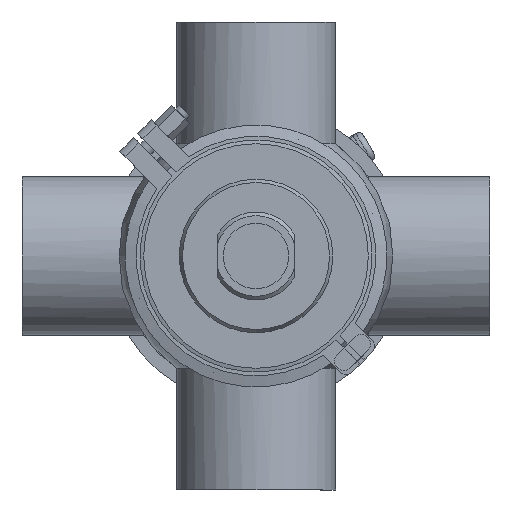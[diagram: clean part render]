
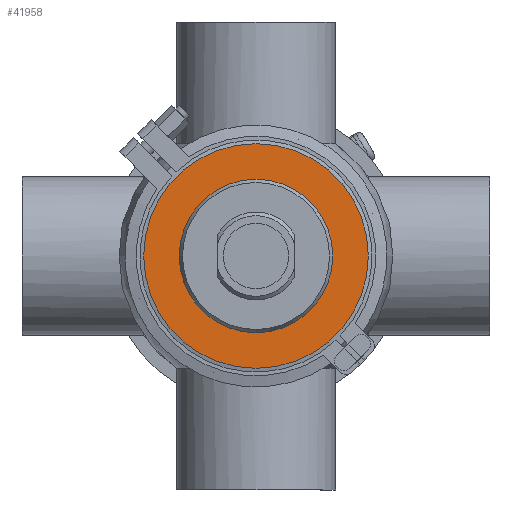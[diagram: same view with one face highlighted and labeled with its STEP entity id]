
A CAD part, front view. The second image highlights one B-rep face of the part: STEP entity #41958.
In plain terms, the highlighted planar face has unit normal (0, -1, 0).
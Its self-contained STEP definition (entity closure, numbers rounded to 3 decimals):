
#147 = CARTESIAN_POINT ( 'NONE',  ( 0., -13., 41. ) ) ;
#4685 = EDGE_CURVE ( 'NONE', #49564, #49564, #48371, .T. ) ;
#7732 = DIRECTION ( 'NONE',  ( 0., 1., 0. ) ) ;
#8980 = AXIS2_PLACEMENT_3D ( 'NONE', #28102, #47432, #52893 ) ;
#9833 = DIRECTION ( 'NONE',  ( 0., 0., 1. ) ) ;
#14847 = ORIENTED_EDGE ( 'NONE', *, *, #35022, .F. ) ;
#21966 = FACE_BOUND ( 'NONE', #52758, .T. ) ;
#24732 = CARTESIAN_POINT ( 'NONE',  ( 0., -13., 0. ) ) ;
#26500 = CARTESIAN_POINT ( 'NONE',  ( 0., -13., 0. ) ) ;
#28102 = CARTESIAN_POINT ( 'NONE',  ( -60., -13., 0. ) ) ;
#32635 = EDGE_LOOP ( 'NONE', ( #14847 ) ) ;
#35022 = EDGE_CURVE ( 'NONE', #44308, #44308, #37238, .T. ) ;
#37238 = CIRCLE ( 'NONE', #56740, 60. ) ;
#38077 = AXIS2_PLACEMENT_3D ( 'NONE', #24732, #38950, #9833 ) ;
#38950 = DIRECTION ( 'NONE',  ( 0., 1., 0. ) ) ;
#41958 = ADVANCED_FACE ( 'NONE', ( #21966, #61225 ), #56423, .T. ) ;
#44308 = VERTEX_POINT ( 'NONE', #49407 ) ;
#46819 = DIRECTION ( 'NONE',  ( 0., 0., 1. ) ) ;
#47432 = DIRECTION ( 'NONE',  ( 0., -1., 0. ) ) ;
#48371 = CIRCLE ( 'NONE', #38077, 41. ) ;
#49407 = CARTESIAN_POINT ( 'NONE',  ( 0., -13., 60. ) ) ;
#49564 = VERTEX_POINT ( 'NONE', #147 ) ;
#52758 = EDGE_LOOP ( 'NONE', ( #59037 ) ) ;
#52893 = DIRECTION ( 'NONE',  ( 0., 0., -1. ) ) ;
#56423 = PLANE ( 'NONE',  #8980 ) ;
#56740 = AXIS2_PLACEMENT_3D ( 'NONE', #26500, #7732, #46819 ) ;
#59037 = ORIENTED_EDGE ( 'NONE', *, *, #4685, .T. ) ;
#61225 = FACE_OUTER_BOUND ( 'NONE', #32635, .T. ) ;
